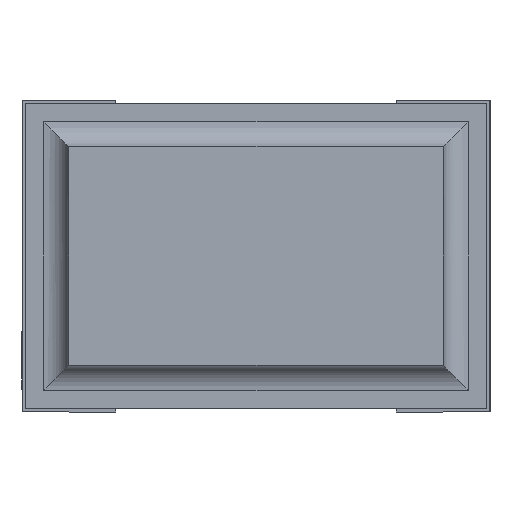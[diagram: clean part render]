
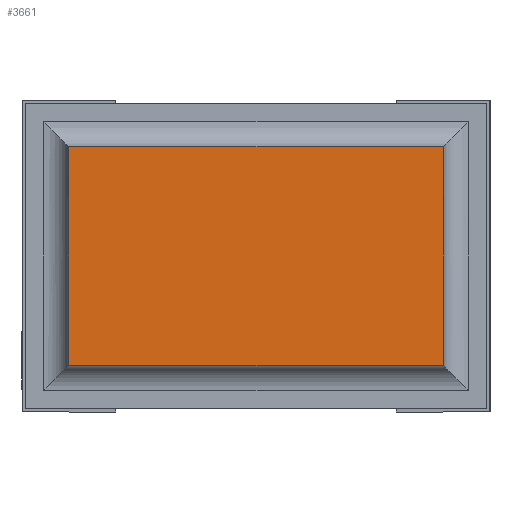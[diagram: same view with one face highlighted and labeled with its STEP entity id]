
A CAD part, front view. The second image highlights one B-rep face of the part: STEP entity #3661.
In plain terms, the highlighted planar face has unit normal (0, -1, 0).
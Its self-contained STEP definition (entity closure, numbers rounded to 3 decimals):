
#98=PLANE('',#3913);
#271=FACE_OUTER_BOUND('',#476,.T.);
#476=EDGE_LOOP('',(#2667,#2668,#2669,#2670));
#723=LINE('',#5361,#1191);
#726=LINE('',#5367,#1194);
#727=LINE('',#5370,#1195);
#728=LINE('',#5371,#1196);
#1191=VECTOR('',#4329,10.);
#1194=VECTOR('',#4334,10.);
#1195=VECTOR('',#4337,10.);
#1196=VECTOR('',#4338,10.);
#1671=VERTEX_POINT('',#5357);
#1672=VERTEX_POINT('',#5359);
#1674=VERTEX_POINT('',#5365);
#1675=VERTEX_POINT('',#5369);
#2057=EDGE_CURVE('',#1671,#1672,#723,.T.);
#2060=EDGE_CURVE('',#1674,#1672,#726,.T.);
#2061=EDGE_CURVE('',#1675,#1674,#727,.T.);
#2062=EDGE_CURVE('',#1671,#1675,#728,.T.);
#2667=ORIENTED_EDGE('',*,*,#2060,.F.);
#2668=ORIENTED_EDGE('',*,*,#2061,.F.);
#2669=ORIENTED_EDGE('',*,*,#2062,.F.);
#2670=ORIENTED_EDGE('',*,*,#2057,.T.);
#3661=ADVANCED_FACE('',(#271),#98,.T.);
#3913=AXIS2_PLACEMENT_3D('',#5368,#4335,#4336);
#4329=DIRECTION('',(0.,0.,-1.));
#4334=DIRECTION('',(-1.,0.,0.));
#4335=DIRECTION('center_axis',(0.,-1.,0.));
#4336=DIRECTION('ref_axis',(0.,0.,-1.));
#4337=DIRECTION('',(0.,0.,-1.));
#4338=DIRECTION('',(1.,0.,0.));
#5357=CARTESIAN_POINT('',(0.075,0.,0.425));
#5359=CARTESIAN_POINT('',(0.075,0.,0.075));
#5361=CARTESIAN_POINT('',(0.075,0.,0.425));
#5365=CARTESIAN_POINT('',(0.675,0.,0.075));
#5367=CARTESIAN_POINT('',(0.675,0.,0.075));
#5368=CARTESIAN_POINT('Origin',(0.676,0.,0.25));
#5369=CARTESIAN_POINT('',(0.675,0.,0.425));
#5370=CARTESIAN_POINT('',(0.675,0.,0.425));
#5371=CARTESIAN_POINT('',(0.075,0.,0.425));
